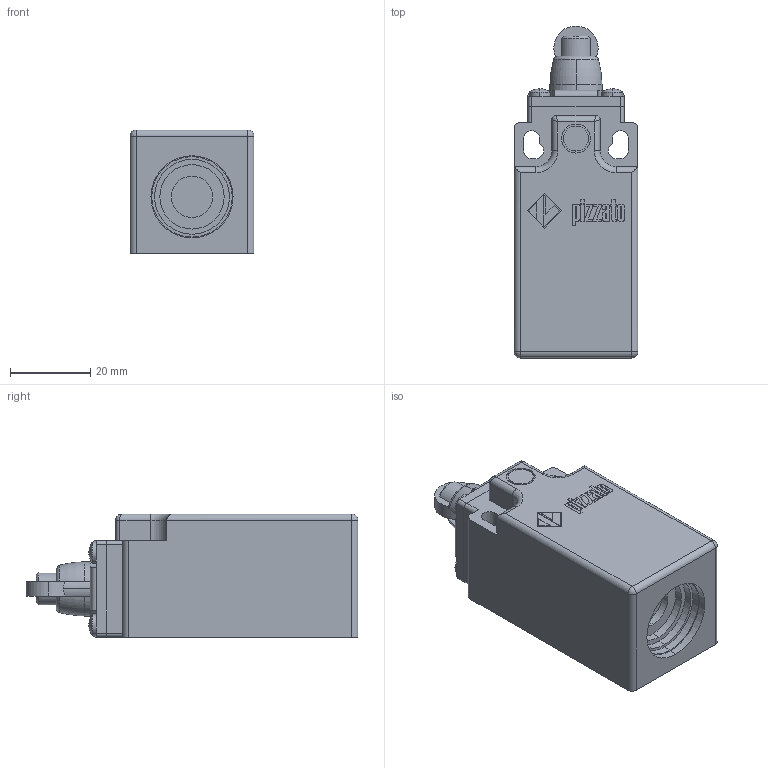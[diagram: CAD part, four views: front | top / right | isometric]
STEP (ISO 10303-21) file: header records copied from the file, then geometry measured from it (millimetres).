
FILE_DESCRIPTION (( 'STEP AP203' ), '1' );
FILE_NAME ('ZF_STEP_FR_x15_A08.step', '2009-06-11T15:16:41', ( '' ), ( '' ), 'SwSTEP 2.0', 'SolidWorks 2009', '' );
FILE_SCHEMA (( 'CONFIG_CONTROL_DESIGN' ));
Length unit declared in the file: millimetre
Products named in the file (4): Pizzato_Custodia_FR; Pizzato_Supporto_TE15; ZF_STEP_FR_x15_A08; Pizzato_Pistoncino_TE15
Assembly tree (3 placements, depth 2):
  ZF_STEP_FR_x15_A08
    Pizzato_Pistoncino_TE15
    Pizzato_Custodia_FR
    Pizzato_Supporto_TE15
Bounding box: 30.8 x 82.5 x 30.8 mm (x, y, z)
Volume: 55893.2 mm3; surface area: 14338.5 mm2
Topology: 3 solids, 3 shells, 445 faces, 1157 edges, 758 vertices
Faces by surface type: plane 255, cylinder 95, bspline 71, sphere 10, torus 9, cone 5
Entity records: 17456 total; most frequent: CARTESIAN_POINT 6479, ORIENTED_EDGE 2306, DIRECTION 1964, EDGE_CURVE 1153, LINE 774, VECTOR 774, VERTEX_POINT 758, AXIS2_PLACEMENT_3D 595
